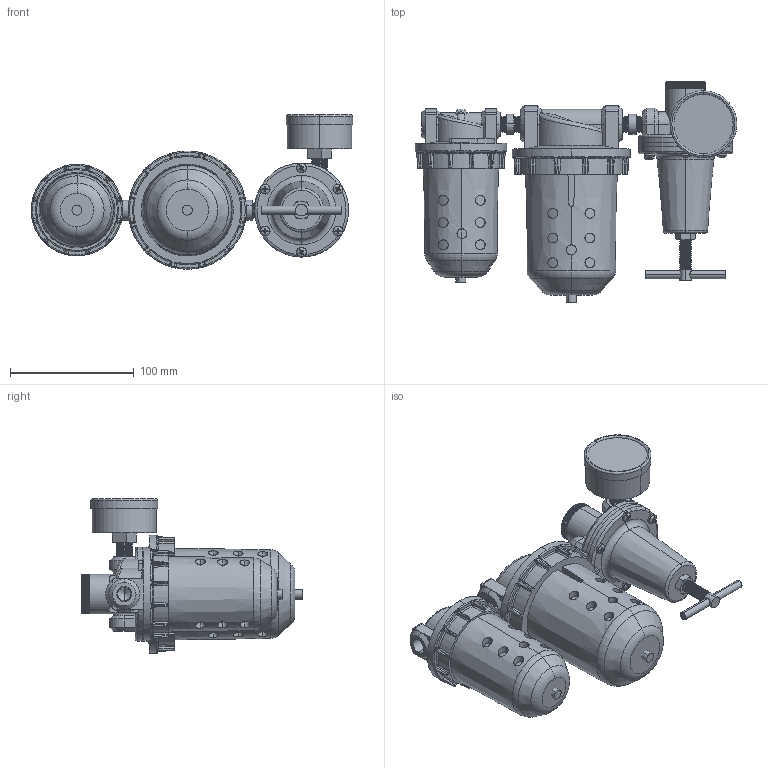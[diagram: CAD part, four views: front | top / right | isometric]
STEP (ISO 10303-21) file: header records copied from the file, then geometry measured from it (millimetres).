
FILE_DESCRIPTION (( 'STEP AP203' ), '1' );
FILE_NAME ('C728##-02YB#.STEP', '2016-01-14T17:44:10', ( '' ), ( '' ), 'SwSTEP 2.0', 'SolidWorks 2014', '' );
FILE_SCHEMA (( 'CONFIG_CONTROL_DESIGN' ));
Length unit declared in the file: millimetre
Products named in the file (21): R119-02-7; 1-4-圓; R119-02-5; 50-P-AD=1-4PT-1; F602-02-1; R119-02-無固定架; F602-02#YB#; R119-02-2; F602-04-下; F602-02-2; 50-P-AD=1-4PT.SLDPRT; F602-02(04)-上; R119-02-6; R119-02-3; R119-02-1; C728##-02YB#; F602-02(04)#YB#; R119-02-4; L606-W-06-5; ISO 7045 - M4 x 16; 50-P-AD=1-4PT-2
Assembly tree (28 placements, depth 4):
  C728##-02YB#
    F602-02#YB#
      F602-02-1
      F602-02-2
      L606-W-06-5
    1-4-圓  x2
    F602-02(04)#YB#
      L606-W-06-5
      F602-04-下
      F602-02(04)-上
    R119-02-無固定架
      R119-02-1
      R119-02-2
      R119-02-3
      R119-02-4
      ISO 7045 - M4 x 16  x7
      R119-02-5
      R119-02-6
      R119-02-7
      50-P-AD=1-4PT.SLDPRT
        50-P-AD=1-4PT-1
        50-P-AD=1-4PT-2
Bounding box: 260 x 178.5 x 124.75 mm (x, y, z)
Volume: 1213104.4 mm3; surface area: 173309.6 mm2
Topology: 24 solids, 24 shells, 1627 faces, 3984 edges, 2377 vertices
Faces by surface type: plane 492, cylinder 383, cone 367, bspline 208, torus 103, sphere 74
Entity records: 60374 total; most frequent: CARTESIAN_POINT 29018, ORIENTED_EDGE 6552, DIRECTION 5462, EDGE_CURVE 3276, AXIS2_PLACEMENT_3D 2271, VERTEX_POINT 1981, EDGE_LOOP 1427, ADVANCED_FACE 1369
